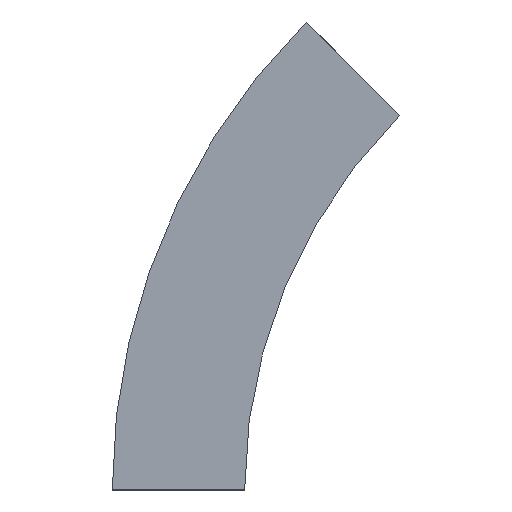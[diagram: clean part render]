
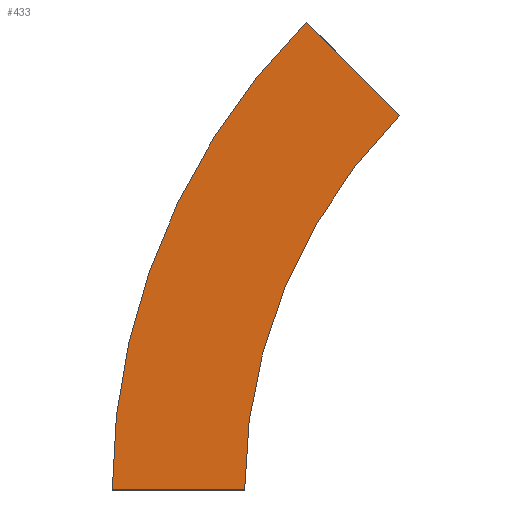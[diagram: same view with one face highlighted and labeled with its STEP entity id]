
A CAD part, left-side view. The second image highlights one B-rep face of the part: STEP entity #433.
In plain terms, the highlighted planar face has unit normal (-1, 0, 0) as drawn and (1, 0, 0) by its records, which use the part's own axes.
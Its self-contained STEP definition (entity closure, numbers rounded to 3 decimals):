
#18 = AXIS2_PLACEMENT_3D ( 'NONE', #347, #564, #132 ) ;
#36 = CARTESIAN_POINT ( 'NONE',  ( 0., -34.835, 265.165 ) ) ;
#38 = DIRECTION ( 'NONE',  ( 1., 0., 0. ) ) ;
#45 = DIRECTION ( 'NONE',  ( 0., 0.707, 0.707 ) ) ;
#59 = LINE ( 'NONE', #171, #281 ) ;
#61 = CARTESIAN_POINT ( 'NONE',  ( 0., -300., 0. ) ) ;
#90 = AXIS2_PLACEMENT_3D ( 'NONE', #384, #38, #539 ) ;
#91 = EDGE_CURVE ( 'NONE', #504, #423, #154, .T. ) ;
#97 = CIRCLE ( 'NONE', #90, 300. ) ;
#132 = DIRECTION ( 'NONE',  ( 0., 0., -1. ) ) ;
#154 = LINE ( 'NONE', #156, #284 ) ;
#156 = CARTESIAN_POINT ( 'NONE',  ( 0., -87.868, 212.132 ) ) ;
#171 = CARTESIAN_POINT ( 'NONE',  ( 0., 0., 0. ) ) ;
#211 = EDGE_CURVE ( 'NONE', #222, #504, #97, .T. ) ;
#221 = PLANE ( 'NONE',  #18 ) ;
#222 = VERTEX_POINT ( 'NONE', #355 ) ;
#245 = DIRECTION ( 'NONE',  ( 0., 1., 0. ) ) ;
#255 = ORIENTED_EDGE ( 'NONE', *, *, #91, .F. ) ;
#258 = EDGE_LOOP ( 'NONE', ( #563, #255, #277, #333 ) ) ;
#265 = FACE_OUTER_BOUND ( 'NONE', #258, .T. ) ;
#277 = ORIENTED_EDGE ( 'NONE', *, *, #211, .F. ) ;
#281 = VECTOR ( 'NONE', #245, 1000. ) ;
#284 = VECTOR ( 'NONE', #45, 1000. ) ;
#285 = DIRECTION ( 'NONE',  ( 0., 1., 0. ) ) ;
#329 = DIRECTION ( 'NONE',  ( 1., 0., 0. ) ) ;
#333 = ORIENTED_EDGE ( 'NONE', *, *, #399, .T. ) ;
#338 = EDGE_CURVE ( 'NONE', #493, #423, #444, .T. ) ;
#347 = CARTESIAN_POINT ( 'NONE',  ( 0., 0., 0. ) ) ;
#355 = CARTESIAN_POINT ( 'NONE',  ( 0., 0., 0. ) ) ;
#357 = CARTESIAN_POINT ( 'NONE',  ( 0., -87.868, 212.132 ) ) ;
#384 = CARTESIAN_POINT ( 'NONE',  ( 0., -300., 0. ) ) ;
#399 = EDGE_CURVE ( 'NONE', #222, #493, #59, .T. ) ;
#423 = VERTEX_POINT ( 'NONE', #36 ) ;
#433 = ADVANCED_FACE ( 'NONE', ( #265 ), #221, .T. ) ;
#444 = CIRCLE ( 'NONE', #536, 375. ) ;
#493 = VERTEX_POINT ( 'NONE', #520 ) ;
#504 = VERTEX_POINT ( 'NONE', #357 ) ;
#520 = CARTESIAN_POINT ( 'NONE',  ( 0., 75., 0. ) ) ;
#536 = AXIS2_PLACEMENT_3D ( 'NONE', #61, #329, #285 ) ;
#539 = DIRECTION ( 'NONE',  ( 0., 1., 0. ) ) ;
#563 = ORIENTED_EDGE ( 'NONE', *, *, #338, .T. ) ;
#564 = DIRECTION ( 'NONE',  ( 1., 0., 0. ) ) ;
